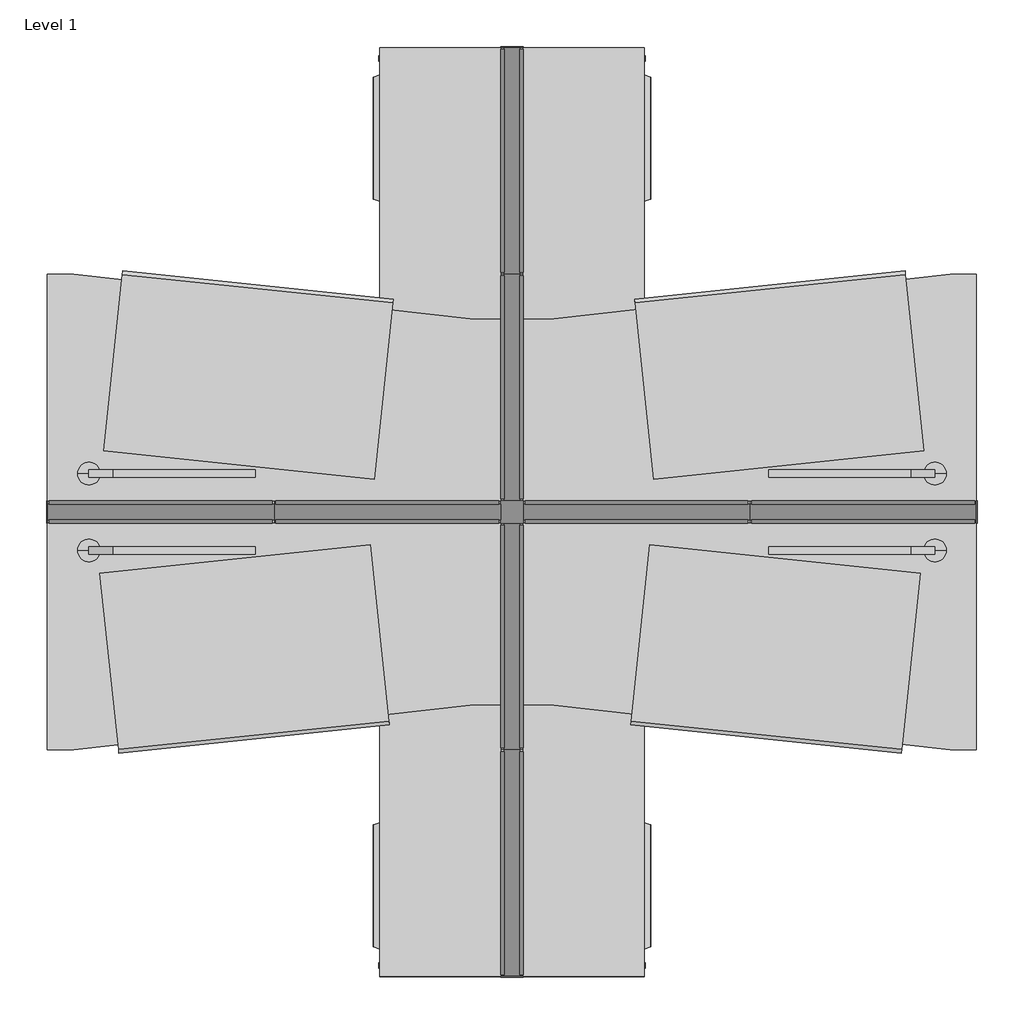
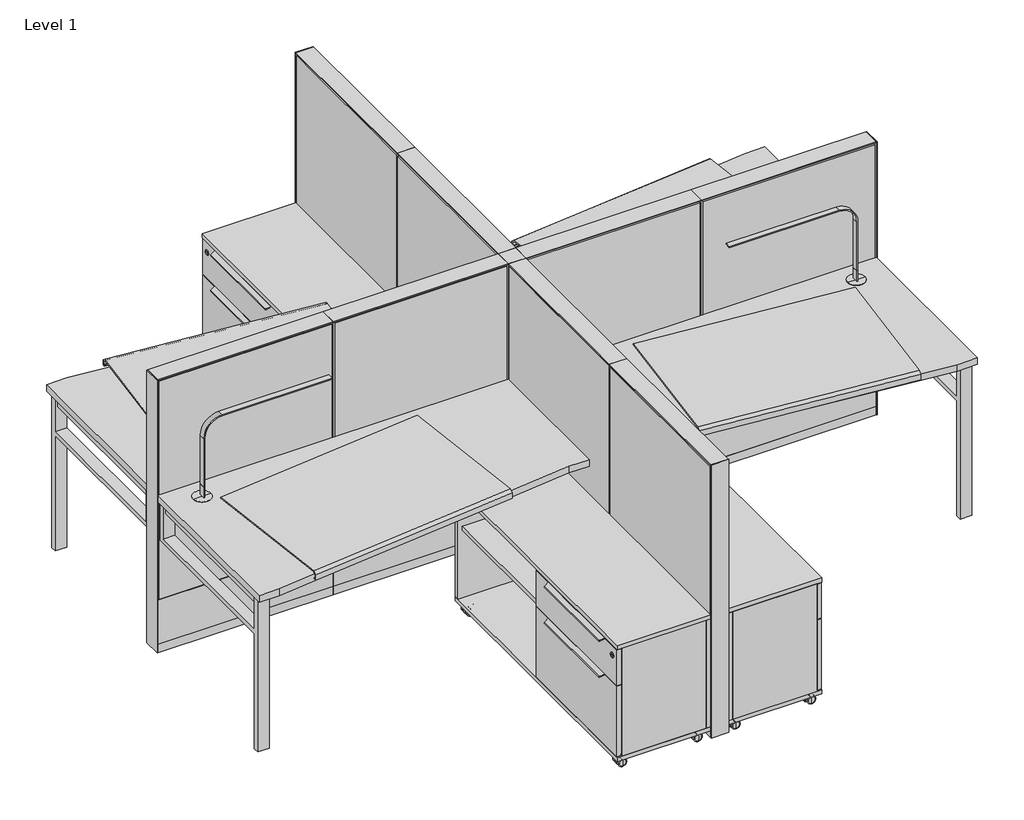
# One storey: 29 furniture elements, 4 light fixtures.
"""IFC4 building model written with IfcOpenShell, lengths in millimetres."""

from ifc_helpers import new_model, si_unit, origin, place, context, project, spatial, transform, mapped, element, save
from components import furniture_96489599, furniture_33e03ec0, furniture_16d_48w_6f4809b6, furniture_16d_48w_3132835f, haworth_compose_panel_post_50h_90_degree_post_92b81c20, haworth_compose_panel_solid1_50h_30w_a3512ea6, haworth_compose_panel_solid1_50h_30w_0f3b6f30, haworth_compose_panel_solid1_50h_30w_e31601ef, haworth_compose_worksurface_wedge_wedge_9bcfc938, haworth_compose_worksurface_wedge_wedge_277dbe90, haworth_worksurface_supports_support_8763f571, haworth_worksurface_supports_support_401ccf27, proud_back_b9e9e623, proud_back_a2f7bcec, proud_back_0982a6b6, proud_back_b5e9429d, light_fixture_0e5bb36a, light_fixture_47b0d56d

model = new_model("IFC4")

# Units and contexts
model_context = context("Model", 3, world=origin())
ifc_project = project(units=[si_unit("LENGTHUNIT", "METRE", prefix="MILLI")], contexts=[model_context])

# Site, building, storey
site = spatial("IfcSite", under=ifc_project)
building = spatial("IfcBuilding", under=site)
storey = spatial("IfcBuildingStorey", under=building, Name="Level 1", Elevation=0.0)

# Furniture
placement = place(None, origin())
furniture_shape = furniture_96489599(model_context)
element("IfcFurniture", 1, ObjectType="Haworth_Belong_Blotter : Blotter", at=placement, inside=storey, context=model_context, shape_type="MappedRepresentation", body=[
    mapped(furniture_shape, transform((1450.2012187, 2775.5432502, 0.0), x_axis=(-0.9945218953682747, -0.1045284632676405, 0.0), y_axis=(0.1045284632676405, -0.9945218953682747, 0.0), z_axis=(0.0, 0.0, 1.0))),
])
element("IfcFurniture", 2, ObjectType="Haworth_Belong_Blotter : Blotter", at=placement, inside=storey, context=model_context, shape_type="MappedRepresentation", body=[
    mapped(furniture_shape, transform((-1294.0492921, 2351.7984348, 0.0), x_axis=(0.9945218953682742, 0.1045284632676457, 0.0), y_axis=(-0.1045284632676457, 0.9945218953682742, 0.0), z_axis=(0.0, 0.0, 1.0))),
])
furniture_2_shape = furniture_33e03ec0(model_context)
element("IfcFurniture", 3, ObjectType="Haworth_Belong_Blotter : Blotter", at=placement, inside=storey, context=model_context, shape_type="MappedRepresentation", body=[
    mapped(furniture_2_shape, transform((1437.5012187, 2351.7984348, 0.0), x_axis=(-0.9945218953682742, 0.1045284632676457, 0.0), y_axis=(-0.1045284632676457, -0.9945218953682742, 0.0), z_axis=(0.0, 0.0, 1.0))),
])
element("IfcFurniture", 4, ObjectType="Haworth_Belong_Blotter : Blotter", at=placement, inside=storey, context=model_context, shape_type="MappedRepresentation", body=[
    mapped(furniture_2_shape, transform((-1281.3492921, 2775.5432502, 0.0), x_axis=(0.9945218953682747, -0.1045284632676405, 0.0), y_axis=(0.1045284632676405, 0.9945218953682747, 0.0), z_axis=(0.0, 0.0, 1.0))),
])
furniture_16d_48w_shape = furniture_16d_48w_6f4809b6(model_context)
element("IfcFurniture", 5, ObjectType="Haworth_BeHold_CommonTop : 16d 48w", at=placement, inside=storey, context=model_context, shape_type="MappedRepresentation", body=[
    mapped(furniture_16d_48w_shape, transform((128.8759633, 3673.0299979, 19.05), x_axis=(0.0, 1.0, 0.0), y_axis=(-1.0, 0.0, 0.0), z_axis=(0.0, 0.0, 1.0))),
])
element("IfcFurniture", 6, ObjectType="Haworth_BeHold_CommonTop : 16d 48w", at=placement, inside=storey, context=model_context, shape_type="MappedRepresentation", body=[
    mapped(furniture_16d_48w_shape, transform((-455.3240367, 1454.3116872, 19.05), x_axis=(0.0, -1.0, 0.0), y_axis=(1.0, 0.0, 0.0), z_axis=(0.0, 0.0, 1.0))),
])
furniture_16d_48w_2_shape = furniture_16d_48w_3132835f(model_context)
element("IfcFurniture", 7, ObjectType="Haworth_BeHold_CommonTop : 16d 48w", at=placement, inside=storey, context=model_context, shape_type="MappedRepresentation", body=[
    mapped(furniture_16d_48w_2_shape, transform((611.4759633, 1454.3116872, 19.05), x_axis=(0.0, -1.0, 0.0), y_axis=(1.0, 0.0, 0.0), z_axis=(0.0, 0.0, 1.0))),
])
element("IfcFurniture", 8, ObjectType="Haworth_BeHold_CommonTop : 16d 48w", at=placement, inside=storey, context=model_context, shape_type="MappedRepresentation", body=[
    mapped(furniture_16d_48w_2_shape, transform((27.2759633, 3673.0299979, 19.05), x_axis=(0.0, 1.0, 0.0), y_axis=(-1.0, 0.0, 0.0), z_axis=(0.0, 0.0, 1.0))),
])
haworth_compose_panel_post_50h_90_degree_post_shape = haworth_compose_panel_post_50h_90_degree_post_92b81c20(model_context)
element("IfcFurniture", 9, ObjectType="Haworth_Compose_Panel_Post : 50h 90 Degree Post", at=placement, inside=storey, context=model_context, shape_type="MappedRepresentation", body=[
    mapped(haworth_compose_panel_post_50h_90_degree_post_shape, transform((39.9759633, 2563.6708425, 0.0), x_axis=(1.0, 0.0, 0.0), y_axis=(0.0, 1.0, 0.0), z_axis=(0.0, 0.0, 1.0))),
])
haworth_compose_panel_solid1_50h_30w_shape = haworth_compose_panel_solid1_50h_30w_a3512ea6(model_context)
element("IfcFurniture", 10, ObjectType="Haworth_Compose_Panel_Solid1 : 50h 30w", at=placement, inside=storey, context=model_context, shape_type="MappedRepresentation", body=[
    mapped(haworth_compose_panel_solid1_50h_30w_shape, transform((494.7356731, 2563.6708425, 0.0), x_axis=(1.0, 0.0, 0.0), y_axis=(0.0, 1.0, 0.0), z_axis=(0.0, 0.0, 1.0))),
])
element("IfcFurniture", 11, ObjectType="Haworth_Compose_Panel_Solid1 : 50h 30w", at=placement, inside=storey, context=model_context, shape_type="MappedRepresentation", body=[
    mapped(haworth_compose_panel_solid1_50h_30w_shape, transform((-338.5837465, 2563.6708425, 0.0), x_axis=(-1.0, 0.0, 0.0), y_axis=(0.0, -1.0, 0.0), z_axis=(0.0, 0.0, 1.0))),
])
element("IfcFurniture", 12, ObjectType="Haworth_Compose_Panel_Solid1 : 50h 30w", at=placement, inside=storey, context=model_context, shape_type="MappedRepresentation", body=[
    mapped(haworth_compose_panel_solid1_50h_30w_shape, transform((78.0759633, 2142.1305524, 0.0), x_axis=(0.0, 1.0, 0.0), y_axis=(-1.0, 0.0, 0.0), z_axis=(0.0, 0.0, 1.0))),
])
element("IfcFurniture", 13, ObjectType="Haworth_Compose_Panel_Solid1 : 50h 30w", at=placement, inside=storey, context=model_context, shape_type="MappedRepresentation", body=[
    mapped(haworth_compose_panel_solid1_50h_30w_shape, transform((78.0759633, 2980.3305524, 0.0), x_axis=(0.0, 1.0, 0.0), y_axis=(-1.0, 0.0, 0.0), z_axis=(0.0, 0.0, 1.0))),
])
haworth_compose_panel_solid1_50h_30w_2_shape = haworth_compose_panel_solid1_50h_30w_0f3b6f30(model_context)
element("IfcFurniture", 14, ObjectType="Haworth_Compose_Panel_Solid1 : 50h 30w", at=placement, inside=storey, context=model_context, shape_type="MappedRepresentation", body=[
    mapped(haworth_compose_panel_solid1_50h_30w_2_shape, transform((-1100.5837465, 2563.6708425, 0.0), x_axis=(-1.0, 0.0, 0.0), y_axis=(0.0, -1.0, 0.0), z_axis=(0.0, 0.0, 1.0))),
])
element("IfcFurniture", 15, ObjectType="Haworth_Compose_Panel_Solid1 : 50h 30w", at=placement, inside=storey, context=model_context, shape_type="MappedRepresentation", body=[
    mapped(haworth_compose_panel_solid1_50h_30w_2_shape, transform((1256.7157073, 2563.6708425, 0.0), x_axis=(1.0, 0.0, 0.0), y_axis=(0.0, 1.0, 0.0), z_axis=(0.0, 0.0, 1.0))),
])
element("IfcFurniture", 16, ObjectType="Haworth_Compose_Panel_Solid1 : 50h 30w", at=placement, inside=storey, context=model_context, shape_type="MappedRepresentation", body=[
    mapped(haworth_compose_panel_solid1_50h_30w_2_shape, transform((78.0759633, 3742.3305524, 0.0), x_axis=(0.0, 1.0, 0.0), y_axis=(-1.0, 0.0, 0.0), z_axis=(0.0, 0.0, 1.0))),
])
haworth_compose_panel_solid1_50h_30w_3_shape = haworth_compose_panel_solid1_50h_30w_e31601ef(model_context)
element("IfcFurniture", 17, ObjectType="Haworth_Compose_Panel_Solid1 : 50h 30w", at=placement, inside=storey, context=model_context, shape_type="MappedRepresentation", body=[
    mapped(haworth_compose_panel_solid1_50h_30w_3_shape, transform((78.0759633, 1380.1305524, 0.0), x_axis=(0.0, 1.0, 0.0), y_axis=(-1.0, 0.0, 0.0), z_axis=(0.0, 0.0, 1.0))),
])
haworth_compose_worksurface_wedge_wedge_shape = haworth_compose_worksurface_wedge_wedge_9bcfc938(model_context)
element("IfcFurniture", 18, ObjectType="Haworth_Compose_Worksurface_Wedge : Wedge", at=placement, inside=storey, context=model_context, shape_type="MappedRepresentation", body=[
    mapped(haworth_compose_worksurface_wedge_wedge_shape, transform((878.1559974, 2144.5708425, 0.0), x_axis=(-1.0, 0.0, 0.0), y_axis=(0.0, -1.0, 0.0), z_axis=(0.0, 0.0, 1.0))),
])
element("IfcFurniture", 19, ObjectType="Haworth_Compose_Worksurface_Wedge : Wedge", at=placement, inside=storey, context=model_context, shape_type="MappedRepresentation", body=[
    mapped(haworth_compose_worksurface_wedge_wedge_shape, transform((-722.0040708, 2982.7708425, 0.0), x_axis=(1.0, 0.0, 0.0), y_axis=(0.0, 1.0, 0.0), z_axis=(0.0, 0.0, 1.0))),
])
haworth_compose_worksurface_wedge_wedge_2_shape = haworth_compose_worksurface_wedge_wedge_277dbe90(model_context)
element("IfcFurniture", 20, ObjectType="Haworth_Compose_Worksurface_Wedge : Wedge", at=placement, inside=storey, context=model_context, shape_type="MappedRepresentation", body=[
    mapped(haworth_compose_worksurface_wedge_wedge_2_shape, transform((-722.0040708, 2144.5708425, 0.0), x_axis=(1.0, 0.0, 0.0), y_axis=(0.0, 1.0, 0.0), z_axis=(0.0, 0.0, 1.0))),
])
element("IfcFurniture", 21, ObjectType="Haworth_Compose_Worksurface_Wedge : Wedge", at=placement, inside=storey, context=model_context, shape_type="MappedRepresentation", body=[
    mapped(haworth_compose_worksurface_wedge_wedge_2_shape, transform((878.1559974, 2982.7708425, 0.0), x_axis=(-1.0, 0.0, 0.0), y_axis=(0.0, -1.0, 0.0), z_axis=(0.0, 0.0, 1.0))),
])
haworth_worksurface_supports_support_shape = haworth_worksurface_supports_support_8763f571(model_context)
element("IfcFurniture", 22, ObjectType="Haworth_Worksurface_Supports : Support", at=placement, inside=storey, context=model_context, shape_type="MappedRepresentation", body=[
    mapped(haworth_worksurface_supports_support_shape, transform((-1558.2395504, 2144.5708425, 0.0), x_axis=(1.0, 0.0, 0.0), y_axis=(0.0, 1.0, 0.0), z_axis=(0.0, 0.0, 1.0))),
])
element("IfcFurniture", 23, ObjectType="Haworth_Worksurface_Supports : Support", at=placement, inside=storey, context=model_context, shape_type="MappedRepresentation", body=[
    mapped(haworth_worksurface_supports_support_shape, transform((1497.2413999, 2144.5708425, 0.0), x_axis=(1.0, 0.0, 0.0), y_axis=(0.0, 1.0, 0.0), z_axis=(0.0, 0.0, 1.0))),
])
haworth_worksurface_supports_support_2_shape = haworth_worksurface_supports_support_401ccf27(model_context)
element("IfcFurniture", 24, ObjectType="Haworth_Worksurface_Supports : Support", at=placement, inside=storey, context=model_context, shape_type="MappedRepresentation", body=[
    mapped(haworth_worksurface_supports_support_2_shape, transform((-1558.2395504, 2983.10162, 0.0), x_axis=(1.0, 0.0, 0.0), y_axis=(0.0, 1.0, 0.0), z_axis=(0.0, 0.0, 1.0))),
])
element("IfcFurniture", 25, ObjectType="Haworth_Worksurface_Supports : Support", at=placement, inside=storey, context=model_context, shape_type="MappedRepresentation", body=[
    mapped(haworth_worksurface_supports_support_2_shape, transform((1497.2413999, 2982.7708425, 0.0), x_axis=(1.0, 0.0, 0.0), y_axis=(0.0, 1.0, 0.0), z_axis=(0.0, 0.0, 1.0))),
])
proud_back_shape = proud_back_b9e9e623(model_context)
proud_back_2_shape = proud_back_a2f7bcec(model_context)
element("IfcFurniture", 26, ObjectType="Haworth_BeHold_Modular_MobileCredenza : Proud Back", at=placement, inside=storey, context=model_context, shape_type="MappedRepresentation", body=[
    mapped(proud_back_shape, transform((128.8759633, 3673.0299979, 0.0), x_axis=(0.0, 1.0, 0.0), y_axis=(-1.0, 0.0, 0.0), z_axis=(0.0, 0.0, 1.0))),
    mapped(proud_back_2_shape, transform((128.8759633, 3673.0299979, 0.0), x_axis=(0.0, 1.0, 0.0), y_axis=(-1.0, 0.0, 0.0), z_axis=(0.0, 0.0, 1.0))),
])
element("IfcFurniture", 27, ObjectType="Haworth_BeHold_Modular_MobileCredenza : Proud Back", at=placement, inside=storey, context=model_context, shape_type="MappedRepresentation", body=[
    mapped(proud_back_shape, transform((27.2759633, 1454.3116872, 0.0), x_axis=(0.0, -1.0, 0.0), y_axis=(1.0, 0.0, 0.0), z_axis=(0.0, 0.0, 1.0))),
    mapped(proud_back_2_shape, transform((27.2759633, 1454.3116872, 0.0), x_axis=(0.0, -1.0, 0.0), y_axis=(1.0, 0.0, 0.0), z_axis=(0.0, 0.0, 1.0))),
])
proud_back_3_shape = proud_back_0982a6b6(model_context)
proud_back_4_shape = proud_back_b5e9429d(model_context)
element("IfcFurniture", 28, ObjectType="Haworth_BeHold_Modular_MobileCredenza : Proud Back", at=placement, inside=storey, context=model_context, shape_type="MappedRepresentation", body=[
    mapped(proud_back_3_shape, transform((27.2759633, 3673.0299979, 0.0), x_axis=(0.0, 1.0, 0.0), y_axis=(-1.0, 0.0, 0.0), z_axis=(0.0, 0.0, 1.0))),
    mapped(proud_back_4_shape, transform((27.2759633, 3673.0299979, 0.0), x_axis=(0.0, 1.0, 0.0), y_axis=(-1.0, 0.0, 0.0), z_axis=(0.0, 0.0, 1.0))),
])
element("IfcFurniture", 29, ObjectType="Haworth_BeHold_Modular_MobileCredenza : Proud Back", at=placement, inside=storey, context=model_context, shape_type="MappedRepresentation", body=[
    mapped(proud_back_3_shape, transform((128.8759633, 1454.3116872, 0.0), x_axis=(0.0, -1.0, 0.0), y_axis=(1.0, 0.0, 0.0), z_axis=(0.0, 0.0, 1.0))),
    mapped(proud_back_4_shape, transform((128.8759633, 1454.3116872, 0.0), x_axis=(0.0, -1.0, 0.0), y_axis=(1.0, 0.0, 0.0), z_axis=(0.0, 0.0, 1.0))),
])

# Light fixtures
light_fixture_shape = light_fixture_0e5bb36a(model_context)
element("IfcLightFixture", 30, ObjectType="Haworth_LIM_Light_CL : LLxx-0022 - Grommet Mount", at=placement, inside=storey, context=model_context, shape_type="MappedRepresentation", body=[
    mapped(light_fixture_shape, transform((1471.1649737, 2210.5269288, 0.0), x_axis=(1.0, 0.0, 0.0), y_axis=(0.0, 1.0, 0.0), z_axis=(0.0, 0.0, 1.0))),
])
element("IfcLightFixture", 31, ObjectType="Haworth_LIM_Light_CL : LLxx-0022 - Grommet Mount", at=placement, inside=storey, context=model_context, shape_type="MappedRepresentation", body=[
    mapped(light_fixture_shape, transform((-1315.013047, 2916.8147563, 0.0), x_axis=(-1.0, 0.0, 0.0), y_axis=(0.0, -1.0, 0.0), z_axis=(0.0, 0.0, 1.0))),
])
light_fixture_2_shape = light_fixture_47b0d56d(model_context)
element("IfcLightFixture", 32, ObjectType="Haworth_LIM_Light_CL : LLxx-0022 - Grommet Mount", at=placement, inside=storey, context=model_context, shape_type="MappedRepresentation", body=[
    mapped(light_fixture_2_shape, transform((-1315.013047, 2210.5269288, 0.0), x_axis=(-1.0, 0.0, 0.0), y_axis=(0.0, -1.0, 0.0), z_axis=(0.0, 0.0, 1.0))),
])
element("IfcLightFixture", 33, ObjectType="Haworth_LIM_Light_CL : LLxx-0022 - Grommet Mount", at=placement, inside=storey, context=model_context, shape_type="MappedRepresentation", body=[
    mapped(light_fixture_2_shape, transform((1471.1649737, 2916.8147563, 0.0), x_axis=(1.0, 0.0, 0.0), y_axis=(0.0, 1.0, 0.0), z_axis=(0.0, 0.0, 1.0))),
])

save(model, "model.ifc")
